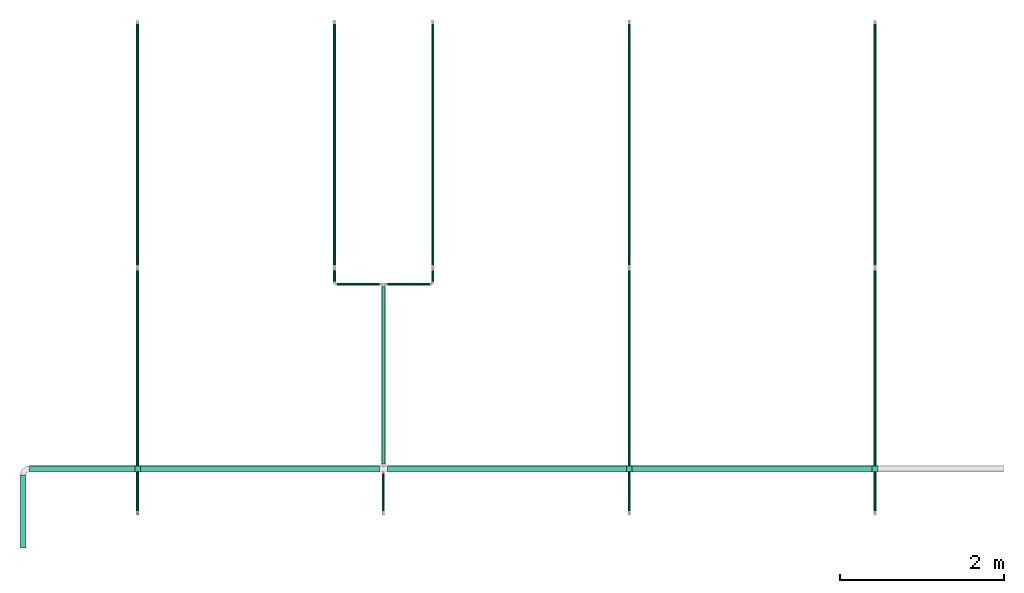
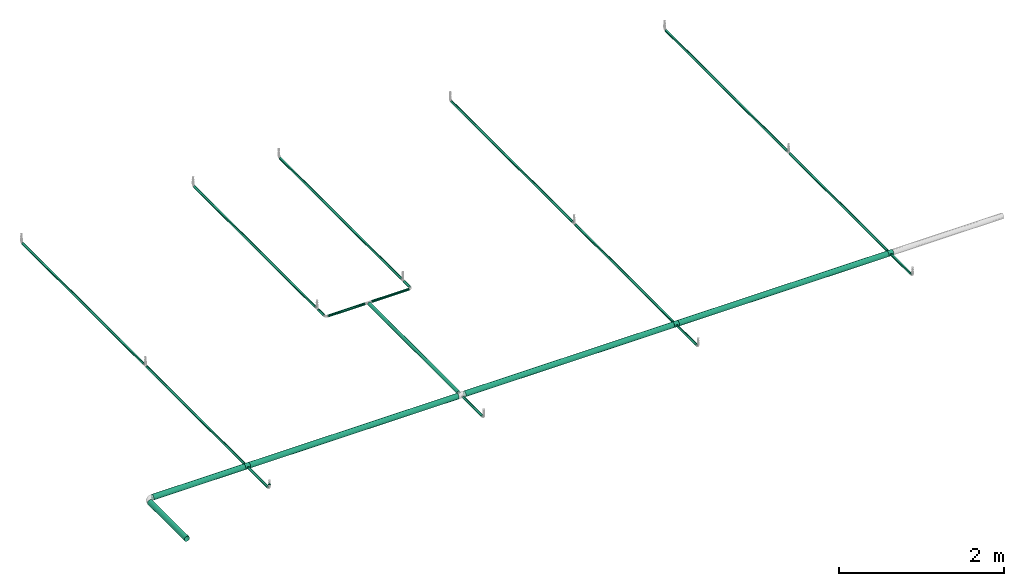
# One storey, part 1 of 31: 22 flow segments, 4 flow fittings.
"""IFC2X3 building model written with IfcOpenShell, lengths in millimetres."""

from ifc_helpers import new_model, entity, si_unit, converted_unit, derived_unit, direction, frame, origin_with_axes, origin_2d_with_axis, place, context, subcontext, project, spatial, hollow_circle, extrude, open_shell, surface_model, source, transform, mapped, type_object, element, save


model = new_model("IFC2X3")

# Units and contexts
model_context = context("Model", 3, precision=0.01, world=frame((0.0, 4.29681676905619e-09, 0.0)), true_north=direction((4.01073788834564e-13, 1.0)))
plan_context = context("Plan", 3, precision=0.01, world=frame((0.0, 4.29681676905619e-09, 0.0)), true_north=direction((4.01073788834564e-13, 1.0)))
body_context = subcontext(model_context, "Body", "Model", "MODEL_VIEW")
ifc_project = project(units=[converted_unit("PLANEANGLEUNIT", "DEGREE", entity("IfcPositiveLengthMeasure", 0.0174532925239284), si_unit("PLANEANGLEUNIT", "RADIAN"), dimensions=[0, 0, 0, 0, 0, 0, 0]), si_unit("AREAUNIT", "SQUARE_METRE"), si_unit("LENGTHUNIT", "METRE", prefix="MILLI"), si_unit("MASSUNIT", "GRAM", prefix="KILO"), si_unit("POWERUNIT", "WATT"), si_unit("PRESSUREUNIT", "PASCAL", prefix="KILO"), si_unit("FORCEUNIT", "NEWTON", prefix="KILO"), si_unit("ELECTRICVOLTAGEUNIT", "VOLT"), si_unit("ELECTRICCURRENTUNIT", "AMPERE"), si_unit("THERMODYNAMICTEMPERATUREUNIT", "DEGREE_CELSIUS"), si_unit("TIMEUNIT", "SECOND"), si_unit("VOLUMEUNIT", "CUBIC_METRE"), derived_unit("LINEARVELOCITYUNIT", [(si_unit("LENGTHUNIT", "METRE"), 1), (si_unit("TIMEUNIT", "SECOND"), -1)]), derived_unit("VOLUMETRICFLOWRATEUNIT", [(si_unit("VOLUMEUNIT", "CUBIC_METRE"), 1), (si_unit("TIMEUNIT", "SECOND"), -1)]), derived_unit("THERMALTRANSMITTANCEUNIT", [(si_unit("POWERUNIT", "WATT"), 1), (si_unit("THERMODYNAMICTEMPERATUREUNIT", "KELVIN"), -1), (si_unit("AREAUNIT", "SQUARE_METRE"), -1)]), derived_unit("SOUNDPRESSUREUNIT", [(si_unit("PRESSUREUNIT", "PASCAL"), 1)])], contexts=[model_context, plan_context])

# Site, building, storey
site_placement = place(None, frame((0.0, -4.29681676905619e-09, 0.0), z_axis=(0.0, 0.0, 1.0), x_axis=(1.0, 0.0, 0.0)))
site = spatial("IfcSite", under=ifc_project, at=site_placement, CompositionType="ELEMENT")
building_placement = place(site_placement, frame((0.0, 4.29681676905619e-09, 0.0), z_axis=(0.0, 0.0, 1.0), x_axis=(1.0, 0.0, 0.0)))
building = spatial("IfcBuilding", under=site, at=building_placement, Name="mc-building", CompositionType="ELEMENT")
storey_placement = place(building_placement, frame((0.0, 0.0, 200300.0), z_axis=(0.0, 0.0, 1.0), x_axis=(1.0, 0.0, 0.0)))
storey = spatial("IfcBuildingStorey", under=building, at=storey_placement, Name="Nivå C", CompositionType="ELEMENT", Elevation=200300.0)

# Flow fittings
pipe_fitting_type_1 = type_object("IfcPipeFittingType", Name="magi_pipe_fe_reducer_centric_short_NOR", PredefinedType="TRANSITION")
shared_shape_1 = source(origin_with_axes(), body_context, "Body", "SurfaceModel", [
    surface_model("IfcShellBasedSurfaceModel", [(14.4, 5.35, -9.26647), (14.4, 0.0, -10.7), (14.4, 2.76936, -10.33541), (14.4, 10.33541, -2.76936), (14.4, 7.56604, -7.56604), (14.4, -10.33541, -2.76936), (14.4, 9.26647, -5.35), (14.4, 0.0, 10.7), (14.4, -5.35, -9.26647), (14.4, -2.76936, -10.33541), (14.4, -7.56604, -7.56604), (14.4, -9.26647, -5.35), (14.4, 10.7, 0.0), (14.4, 10.33541, 2.76936), (14.4, 9.26647, 5.35), (14.4, 7.56604, 7.56604), (14.4, 2.76936, 10.33541), (14.4, 5.35, 9.26647), (14.4, -10.33541, 2.76936), (14.4, -7.56604, 7.56604), (14.4, -9.26647, 5.35), (14.4, -10.7, 0.0), (14.4, -2.76936, 10.33541), (14.4, -5.35, 9.26647), (12.4, 2.76936, 10.33541), (12.4, -10.33541, -2.76936), (12.4, 0.0, 10.7), (12.4, 5.35, 9.26647), (12.4, 7.56604, 7.56604), (12.4, 9.26647, 5.35), (12.4, 10.33541, 2.76936), (12.4, -10.33541, 2.76936), (12.4, -2.76936, 10.33541), (12.4, -7.56604, 7.56604), (12.4, -5.35, 9.26647), (12.4, -9.26647, 5.35), (12.4, -10.7, 0.0), (12.4, 10.33541, -2.76936), (12.4, 5.35, -9.26647), (12.4, 9.26647, -5.35), (12.4, 7.56604, -7.56604), (12.4, 2.76936, -10.33541), (12.4, -9.26647, -5.35), (12.4, -5.35, -9.26647), (12.4, -7.56604, -7.56604), (12.4, 0.0, -10.7), (12.4, -2.76936, -10.33541), (12.4, 10.7, 0.0), (-2.0, 11.9501, 11.9501), (-2.0, 0.0, 16.9), (-2.0, 4.37404, 16.32415), (-2.0, 8.45, 14.63583), (-2.0, 14.63583, 8.45), (-2.0, 16.32415, 4.37404), (-2.0, -16.32415, 4.37404), (-2.0, -8.45, 14.63583), (-2.0, -14.63583, 8.45), (-2.0, -11.9501, 11.9501), (-2.0, -4.37404, 16.32415), (-2.0, -16.32415, -4.37404), (-2.0, -16.9, 0.0), (-2.0, -8.45, -14.63583), (-2.0, 16.32415, -4.37404), (-2.0, 11.9501, -11.9501), (-2.0, 14.63583, -8.45), (-2.0, 8.45, -14.63583), (-2.0, 4.37404, -16.32415), (-2.0, 0.0, -16.9), (-2.0, -11.9501, -11.9501), (-2.0, -14.63583, -8.45), (-2.0, -4.37404, -16.32415), (-2.0, 16.9, 0.0), (0.0, 4.37404, -16.32415), (0.0, 8.45, -14.63583), (0.0, 11.9501, -11.9501), (0.0, 0.0, -16.9), (0.0, 16.32415, -4.37404), (0.0, 16.32415, 4.37404), (0.0, 14.63583, -8.45), (0.0, -8.45, -14.63583), (0.0, -4.37404, -16.32415), (0.0, -11.9501, -11.9501), (0.0, -16.32415, -4.37404), (0.0, -14.63583, -8.45), (0.0, -16.32415, 4.37404), (0.0, 16.9, 0.0), (0.0, 14.63583, 8.45), (0.0, 11.9501, 11.9501), (0.0, 4.37404, 16.32415), (0.0, 8.45, 14.63583), (0.0, 0.0, 16.9), (0.0, -14.63583, 8.45), (0.0, -16.9, 0.0), (0.0, -8.45, 14.63583), (0.0, -11.9501, 11.9501), (0.0, -4.37404, 16.32415), (12.4, 9.3625, -2.31662), (0.0, 14.42505, -5.97505), (0.0, 15.66253, -2.98753), (12.4, -6.6875, -6.94985), (0.0, -13.18758, -8.96258), (0.0, 2.98753, -15.66253), (12.4, 0.0, -9.26647), (12.4, 6.6875, -6.94985), (0.0, 8.96258, -13.18758), (12.4, -9.3625, -2.31662), (0.0, -15.66253, -2.98753), (0.0, -14.42505, -5.97505), (0.0, 5.97505, -14.42505), (0.0, -2.98753, -15.66253), (0.0, -8.96258, -13.18758), (0.0, 13.18758, -8.96258), (12.4, 8.025, -4.63324), (12.4, -2.675, -9.26647), (12.4, 2.675, -9.26647), (0.0, -5.97505, -14.42505), (12.4, -8.025, -4.63324), (12.4, -9.3625, 2.31662), (0.0, -14.42505, 5.97505), (0.0, -15.66253, 2.98753), (12.4, 6.6875, 6.94985), (0.0, 13.18758, 8.96258), (0.0, -2.98753, 15.66253), (12.4, 0.0, 9.26647), (12.4, -6.6875, 6.94985), (0.0, -8.96258, 13.18758), (12.4, 9.3625, 2.31662), (0.0, 15.66253, 2.98753), (0.0, 14.42505, 5.97505), (0.0, -5.97505, 14.42505), (0.0, 2.98753, 15.66253), (0.0, 8.96258, 13.18758), (0.0, -13.18758, 8.96258), (12.4, -8.025, 4.63324), (12.4, 2.675, 9.26647), (12.4, -2.675, 9.26647), (0.0, 5.97505, 14.42505), (12.4, 8.025, 4.63324)], [open_shell([[[0, 1, 2]], [[3, 0, 4]], [[5, 0, 3]], [[3, 4, 6]], [[7, 5, 3]], [[1, 8, 9]], [[1, 0, 8]], [[10, 5, 11]], [[5, 10, 8]], [[0, 5, 8]], [[3, 12, 13]], [[13, 14, 15]], [[13, 15, 16]], [[7, 3, 16]], [[16, 15, 17]], [[7, 18, 5]], [[18, 19, 20]], [[21, 5, 18]], [[19, 22, 23]], [[22, 19, 18]], [[7, 22, 18]], [[13, 16, 3]], [[24, 25, 26]], [[27, 25, 24]], [[28, 29, 30]], [[28, 25, 27]], [[31, 26, 25]], [[32, 33, 34]], [[33, 32, 31]], [[33, 31, 35]], [[32, 26, 31]], [[31, 25, 36]], [[30, 37, 28]], [[25, 28, 37]], [[38, 37, 39]], [[37, 38, 25]], [[38, 39, 40]], [[41, 25, 38]], [[42, 43, 44]], [[43, 42, 25]], [[43, 45, 46]], [[43, 25, 41]], [[41, 45, 43]], [[37, 30, 47]], [[25, 5, 36]], [[42, 11, 25]], [[8, 44, 43]], [[42, 44, 10]], [[9, 43, 46]], [[25, 11, 5]], [[5, 21, 36]], [[9, 8, 43]], [[10, 44, 8]], [[10, 11, 42]], [[1, 9, 46]], [[46, 45, 1]], [[41, 2, 45]], [[38, 0, 41]], [[6, 40, 39]], [[38, 40, 4]], [[3, 39, 37]], [[38, 4, 0]], [[0, 2, 41]], [[12, 3, 37]], [[6, 39, 3]], [[6, 4, 40]], [[47, 12, 37]], [[45, 2, 1]], [[30, 13, 47]], [[29, 14, 30]], [[17, 28, 27]], [[29, 28, 15]], [[16, 27, 24]], [[30, 14, 13]], [[13, 12, 47]], [[16, 17, 27]], [[15, 28, 17]], [[15, 14, 29]], [[7, 16, 24]], [[24, 26, 7]], [[32, 22, 26]], [[34, 23, 32]], [[20, 33, 35]], [[34, 33, 19]], [[18, 35, 31]], [[34, 19, 23]], [[23, 22, 32]], [[21, 18, 31]], [[20, 35, 18]], [[20, 19, 33]], [[36, 21, 31]], [[26, 22, 7]], [[48, 49, 50]], [[48, 50, 51]], [[48, 52, 53]], [[48, 53, 49]], [[49, 53, 54]], [[55, 56, 57]], [[55, 58, 49]], [[56, 55, 49]], [[49, 54, 56]], [[54, 59, 60]], [[54, 53, 61]], [[53, 62, 63]], [[63, 62, 64]], [[63, 65, 66]], [[61, 53, 63]], [[67, 63, 66]], [[59, 68, 69]], [[68, 59, 61]], [[61, 67, 70]], [[59, 54, 61]], [[63, 67, 61]], [[53, 71, 62]], [[72, 73, 74]], [[75, 72, 74]], [[74, 76, 77]], [[76, 74, 78]], [[74, 77, 79]], [[75, 79, 80]], [[75, 74, 79]], [[81, 82, 83]], [[82, 81, 79]], [[79, 84, 82]], [[77, 76, 85]], [[77, 86, 87]], [[77, 87, 88]], [[88, 84, 79]], [[88, 87, 89]], [[84, 88, 90]], [[90, 91, 84]], [[92, 82, 84]], [[91, 93, 94]], [[91, 90, 93]], [[93, 90, 95]], [[79, 77, 88]], [[59, 82, 60]], [[69, 83, 59]], [[79, 68, 61]], [[69, 68, 81]], [[80, 61, 70]], [[59, 83, 82]], [[82, 92, 60]], [[80, 79, 61]], [[81, 68, 79]], [[81, 83, 69]], [[75, 80, 70]], [[70, 67, 75]], [[66, 72, 67]], [[65, 73, 66]], [[78, 63, 64]], [[65, 63, 74]], [[76, 64, 62]], [[65, 74, 73]], [[73, 72, 66]], [[85, 76, 62]], [[78, 64, 76]], [[78, 74, 63]], [[71, 85, 62]], [[67, 72, 75]], [[53, 77, 71]], [[52, 86, 53]], [[89, 48, 51]], [[52, 48, 87]], [[88, 51, 50]], [[53, 86, 77]], [[77, 85, 71]], [[88, 89, 51]], [[87, 48, 89]], [[87, 86, 52]], [[90, 88, 50]], [[50, 49, 90]], [[58, 95, 49]], [[55, 93, 58]], [[91, 57, 56]], [[55, 57, 94]], [[84, 56, 54]], [[55, 94, 93]], [[93, 95, 58]], [[92, 84, 54]], [[91, 56, 84]], [[91, 94, 57]], [[60, 92, 54]], [[49, 95, 90]], [[27, 34, 47]], [[47, 34, 43]], [[43, 38, 47]], [[43, 34, 36]], [[90, 87, 94]], [[92, 94, 87]], [[87, 74, 92]], [[75, 92, 74]], [[81, 92, 75]], [[74, 87, 85]], [[96, 97, 98]], [[81, 99, 100]], [[101, 102, 75]], [[98, 85, 47]], [[74, 103, 104]], [[104, 103, 38]], [[105, 106, 107]], [[38, 108, 104]], [[102, 109, 75]], [[110, 99, 81]], [[47, 96, 98]], [[103, 111, 112]], [[109, 102, 113]], [[36, 92, 106]], [[102, 101, 114]], [[110, 115, 43]], [[96, 112, 97]], [[107, 116, 105]], [[36, 106, 105]], [[113, 115, 109]], [[43, 115, 113]], [[116, 107, 100]], [[108, 38, 114]], [[111, 103, 74]], [[111, 97, 112]], [[99, 110, 43]], [[116, 100, 99]], [[101, 108, 114]], [[117, 118, 119]], [[87, 120, 121]], [[122, 123, 90]], [[119, 92, 36]], [[94, 124, 125]], [[125, 124, 34]], [[126, 127, 128]], [[34, 129, 125]], [[123, 130, 90]], [[131, 120, 87]], [[36, 117, 119]], [[124, 132, 133]], [[130, 123, 134]], [[47, 85, 127]], [[123, 122, 135]], [[131, 136, 27]], [[117, 133, 118]], [[128, 137, 126]], [[47, 127, 126]], [[134, 136, 130]], [[27, 136, 134]], [[137, 128, 121]], [[129, 34, 135]], [[132, 124, 94]], [[132, 118, 133]], [[120, 131, 27]], [[137, 121, 120]], [[122, 129, 135]]])]),
])
flow_fitting_placement = place(storey_placement, frame((602500.0, 397923.19532, 2962.64799999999), z_axis=(0.0, 1.0, 0.0), x_axis=(0.0, 0.0, 1.0)))
element("IfcFlowFitting", 1, at=flow_fitting_placement, inside=storey, type_object=pipe_fitting_type_1, Name="magi_pipe_fe_reducer_centric_short_NOR", context=body_context, shape_type="MappedRepresentation", body=[
    mapped(shared_shape_1, transform((0.0, 0.0, 0.0), scale=1.0)),
])
pipe_fitting_type_2 = type_object("IfcPipeFittingType", Name="magi_pipe_fe_cross_centric_90_001", PredefinedType="JUNCTION")
shared_shape_2 = source(origin_with_axes(), body_context, "Body", "SurfaceModel", [
    surface_model("IfcShellBasedSurfaceModel", [(-33.8, 9.86101, -36.80177), (-33.8, 0.0, -38.1), (-33.8, 36.80177, -9.86101), (-33.8, 19.05, -32.99557), (-33.8, 32.99557, -19.05), (-33.8, 26.94077, -26.94077), (-33.8, -38.1, 0.0), (-33.8, -19.05, -32.99557), (-33.8, -26.94077, -26.94077), (-33.8, -9.86101, -36.80177), (-33.8, -32.99557, -19.05), (-33.8, -36.80177, -9.86101), (-33.8, 38.1, 0.0), (-33.8, 32.99557, 19.05), (-33.8, 36.80177, 9.86101), (-33.8, -36.80177, 9.86101), (-33.8, 19.05, 32.99557), (-33.8, 26.94077, 26.94077), (-33.8, 9.86101, 36.80177), (-33.8, 0.0, 38.1), (-33.8, -26.94077, 26.94077), (-33.8, -32.99557, 19.05), (-33.8, -9.86101, 36.80177), (-33.8, -19.05, 32.99557), (33.8, 0.0, -38.1), (33.8, 9.86101, -36.80177), (33.8, 19.05, -32.99557), (33.8, 26.94077, -26.94077), (33.8, 32.99557, -19.05), (33.8, 36.80177, -9.86101), (33.8, -38.1, 0.0), (33.8, -9.86101, -36.80177), (33.8, -26.94077, -26.94077), (33.8, -19.05, -32.99557), (33.8, -32.99557, -19.05), (33.8, -36.80177, -9.86101), (33.8, 36.80177, 9.86101), (33.8, 32.99557, 19.05), (33.8, 19.05, 32.99557), (33.8, 0.0, 38.1), (33.8, 26.94077, 26.94077), (33.8, 9.86101, 36.80177), (33.8, -26.94077, 26.94077), (33.8, -32.99557, 19.05), (33.8, -36.80177, 9.86101), (33.8, -19.05, 32.99557), (33.8, -9.86101, 36.80177), (33.8, 38.1, 0.0), (33.8, -37.45089, 4.9305), (15.86072, -37.65053, 5.83504), (16.9, -38.1, 0.0), (-8.4904, -35.18646, 14.61243), (-33.8, -34.89867, 14.4555), (-15.8612, -37.65073, 5.83372), (-12.9317, -36.51341, 10.88031), (12.92726, -36.51183, 10.88559), (33.8, -34.89867, 14.4555), (8.48894, -35.18611, 14.61328), (-2.97221, -34.27585, 16.63658), (2.96752, -34.27545, 16.63742), (-33.8, -37.45089, 4.9305), (-16.9, -38.1, 0.0), (-33.8, -37.45089, -4.9305), (-15.8612, -37.65073, -5.83372), (15.86072, -37.65053, -5.83504), (33.8, -37.45089, -4.9305), (-12.9317, -36.51341, -10.88031), (-33.8, -34.89867, -14.4555), (-8.4904, -35.18646, -14.61243), (8.48894, -35.18611, -14.61328), (33.8, -34.89867, -14.4555), (2.96752, -34.27545, -16.63742), (12.92726, -36.51183, -10.88559), (-2.97221, -34.27585, -16.63658), (4.37404, -57.15, -16.32415), (-16.9, -57.15, 0.0), (0.0, -57.15, -16.9), (14.63583, -57.15, -8.45), (8.45, -57.15, -14.63583), (16.32415, -57.15, -4.37404), (11.9501, -57.15, -11.9501), (-11.9501, -57.15, -11.9501), (-8.45, -57.15, -14.63583), (-4.37404, -57.15, -16.32415), (-14.63583, -57.15, -8.45), (-16.32415, -57.15, -4.37404), (16.9, -57.15, 0.0), (8.45, -57.15, 14.63583), (16.32415, -57.15, 4.37404), (14.63583, -57.15, 8.45), (-8.45, -57.15, 14.63583), (11.9501, -57.15, 11.9501), (4.37404, -57.15, 16.32415), (-16.32415, -57.15, 4.37404), (-11.9501, -57.15, 11.9501), (-14.63583, -57.15, 8.45), (0.0, -57.15, 16.9), (-4.37404, -57.15, 16.32415), (-16.3806, -37.87537, 2.91686), (-5.7313, -34.73116, 15.62451), (-0.00235, -34.27565, 16.637), (5.72823, -34.73078, 15.62535), (16.38036, -37.87526, 2.91752), (16.38036, -37.87526, -2.91752), (5.72823, -34.73078, -15.62535), (-0.00235, -34.27565, -16.637), (-5.7313, -34.73116, -15.62451), (-16.3806, -37.87537, -2.91686), (15.8612, 37.65073, 5.83372), (33.8, 37.45089, 4.9305), (2.97221, 34.27585, 16.63658), (16.9, 38.1, 0.0), (8.4904, 35.18646, 14.61243), (33.8, 34.89867, 14.4555), (12.9317, 36.51341, 10.88031), (-2.96752, 34.27545, 16.63742), (-16.9, 38.1, 0.0), (-33.8, 37.45089, 4.9305), (-15.86072, 37.65053, 5.83504), (-8.48894, 35.18611, 14.61328), (-12.92726, 36.51183, 10.88559), (-33.8, 34.89867, 14.4555), (33.8, 37.45089, -4.9305), (15.8612, 37.65073, -5.83372), (12.9317, 36.51341, -10.88031), (33.8, 34.89867, -14.4555), (2.97221, 34.27585, -16.63658), (8.4904, 35.18646, -14.61243), (-2.96752, 34.27545, -16.63742), (-8.48894, 35.18611, -14.61328), (-33.8, 34.89867, -14.4555), (-12.92726, 36.51183, -10.88559), (-15.86072, 37.65053, -5.83504), (-33.8, 37.45089, -4.9305), (-4.37404, 57.15, -16.32415), (16.9, 57.15, 0.0), (0.0, 57.15, -16.9), (-14.63583, 57.15, -8.45), (-8.45, 57.15, -14.63583), (-16.32415, 57.15, -4.37404), (-11.9501, 57.15, -11.9501), (-8.45, 57.15, 14.63583), (8.45, 57.15, -14.63583), (4.37404, 57.15, -16.32415), (11.9501, 57.15, -11.9501), (14.63583, 57.15, -8.45), (16.32415, 57.15, -4.37404), (-16.32415, 57.15, 4.37404), (-14.63583, 57.15, 8.45), (16.32415, 57.15, 4.37404), (-11.9501, 57.15, 11.9501), (0.0, 57.15, 16.9), (-4.37404, 57.15, 16.32415), (11.9501, 57.15, 11.9501), (14.63583, 57.15, 8.45), (8.45, 57.15, 14.63583), (4.37404, 57.15, 16.32415), (-16.9, 57.15, 0.0), (16.3806, 37.87537, 2.91686), (5.7313, 34.73116, 15.62451), (0.00235, 34.27565, 16.637), (-5.72823, 34.73078, 15.62535), (-16.38036, 37.87526, 2.91752), (-16.38036, 37.87526, -2.91752), (-5.72823, 34.73078, -15.62535), (0.00235, 34.27565, -16.637), (5.7313, 34.73116, -15.62451), (16.3806, 37.87537, -2.91686)], [open_shell([[[0, 1, 2]], [[3, 0, 2]], [[2, 4, 5]], [[3, 2, 5]], [[6, 2, 1]], [[7, 8, 9]], [[8, 1, 9]], [[10, 11, 8]], [[6, 8, 11]], [[8, 6, 1]], [[6, 12, 2]], [[13, 14, 12]], [[15, 13, 6]], [[16, 13, 15]], [[17, 13, 16]], [[18, 16, 19]], [[20, 19, 21]], [[16, 15, 21]], [[22, 19, 23]], [[20, 23, 19]], [[21, 19, 16]], [[12, 6, 13]], [[24, 25, 26]], [[24, 26, 27]], [[27, 28, 29]], [[24, 27, 30]], [[30, 27, 29]], [[31, 32, 33]], [[31, 24, 32]], [[34, 30, 35]], [[30, 34, 32]], [[24, 30, 32]], [[29, 36, 30]], [[36, 37, 30]], [[30, 37, 38]], [[38, 39, 30]], [[38, 37, 40]], [[39, 38, 41]], [[30, 42, 43]], [[44, 30, 43]], [[45, 39, 46]], [[45, 42, 30]], [[30, 39, 45]], [[36, 29, 47]], [[48, 44, 49]], [[50, 30, 48]], [[50, 48, 49]], [[51, 21, 52]], [[53, 54, 15]], [[55, 56, 57]], [[58, 59, 20]], [[53, 15, 60]], [[41, 38, 16]], [[45, 23, 42]], [[61, 62, 63]], [[64, 35, 65]], [[31, 33, 7]], [[66, 67, 68]], [[3, 26, 0]], [[26, 3, 5]], [[69, 34, 70]], [[32, 71, 8]], [[64, 72, 35]], [[73, 68, 10]], [[68, 67, 10]], [[66, 63, 11]], [[63, 62, 11]], [[62, 61, 6]], [[32, 8, 33]], [[74, 75, 76]], [[77, 74, 78]], [[77, 79, 74]], [[77, 78, 80]], [[75, 74, 79]], [[76, 81, 82]], [[82, 83, 76]], [[84, 75, 85]], [[81, 76, 84]], [[75, 84, 76]], [[79, 86, 75]], [[87, 86, 88]], [[87, 88, 89]], [[90, 75, 87]], [[87, 89, 91]], [[90, 87, 92]], [[93, 94, 95]], [[94, 93, 90]], [[90, 96, 97]], [[93, 75, 90]], [[92, 96, 90]], [[87, 75, 86]], [[93, 98, 75]], [[54, 95, 94]], [[93, 95, 53]], [[94, 90, 51]], [[98, 61, 75]], [[53, 95, 54]], [[97, 58, 99]], [[51, 54, 94]], [[96, 59, 100]], [[87, 101, 92]], [[99, 90, 97]], [[99, 51, 90]], [[93, 53, 98]], [[92, 59, 96]], [[49, 89, 88]], [[102, 86, 50]], [[102, 49, 88]], [[91, 89, 55]], [[96, 58, 97]], [[101, 59, 92]], [[87, 57, 101]], [[87, 91, 57]], [[57, 91, 55]], [[55, 89, 49]], [[86, 102, 88]], [[100, 58, 96]], [[79, 103, 86]], [[72, 77, 80]], [[79, 77, 64]], [[80, 78, 69]], [[103, 50, 86]], [[64, 77, 72]], [[74, 71, 104]], [[69, 72, 80]], [[76, 73, 105]], [[82, 106, 83]], [[107, 75, 61]], [[104, 78, 74]], [[104, 69, 78]], [[68, 82, 81]], [[79, 64, 103]], [[63, 84, 85]], [[107, 63, 85]], [[84, 66, 81]], [[76, 71, 74]], [[83, 106, 73]], [[73, 76, 83]], [[68, 106, 82]], [[68, 81, 66]], [[66, 84, 63]], [[75, 107, 85]], [[105, 71, 76]], [[55, 49, 44]], [[56, 55, 44]], [[20, 59, 42]], [[57, 43, 59]], [[43, 57, 56]], [[59, 43, 42]], [[108, 36, 109]], [[45, 46, 22]], [[51, 52, 54]], [[60, 61, 53]], [[61, 60, 6]], [[52, 15, 54]], [[58, 20, 21]], [[58, 21, 51]], [[23, 20, 42]], [[45, 22, 23]], [[46, 19, 22]], [[46, 39, 19]], [[40, 17, 38]], [[41, 18, 39]], [[110, 40, 37]], [[109, 47, 111]], [[109, 111, 108]], [[112, 113, 114]], [[108, 114, 36]], [[114, 113, 36]], [[110, 37, 112]], [[18, 41, 16]], [[110, 115, 40]], [[116, 117, 118]], [[40, 115, 17]], [[17, 16, 38]], [[17, 115, 13]], [[115, 119, 13]], [[120, 121, 119]], [[120, 118, 14]], [[120, 14, 121]], [[118, 117, 14]], [[117, 116, 12]], [[112, 37, 113]], [[119, 121, 13]], [[39, 18, 19]], [[122, 29, 123]], [[111, 47, 122]], [[124, 123, 29]], [[125, 124, 29]], [[111, 122, 123]], [[5, 27, 26]], [[28, 126, 127]], [[126, 28, 27]], [[128, 126, 27]], [[26, 25, 0]], [[28, 127, 125]], [[124, 125, 127]], [[129, 130, 131]], [[132, 131, 2]], [[132, 133, 116]], [[116, 133, 12]], [[130, 2, 131]], [[27, 5, 128]], [[129, 4, 130]], [[128, 5, 4]], [[25, 1, 0]], [[128, 4, 129]], [[25, 24, 1]], [[31, 9, 24]], [[71, 32, 34]], [[65, 30, 50]], [[65, 50, 64]], [[69, 70, 72]], [[72, 70, 35]], [[71, 34, 69]], [[9, 31, 7]], [[132, 2, 133]], [[8, 71, 73]], [[8, 7, 33]], [[8, 73, 10]], [[66, 11, 67]], [[24, 9, 1]], [[134, 135, 136]], [[137, 134, 138]], [[137, 139, 134]], [[137, 138, 140]], [[141, 135, 134]], [[136, 142, 143]], [[136, 144, 142]], [[145, 135, 146]], [[144, 136, 145]], [[136, 135, 145]], [[134, 139, 141]], [[139, 147, 141]], [[141, 147, 148]], [[141, 149, 135]], [[141, 148, 150]], [[151, 141, 152]], [[149, 153, 154]], [[153, 149, 155]], [[155, 151, 156]], [[155, 149, 141]], [[141, 151, 155]], [[139, 157, 147]], [[149, 158, 135]], [[114, 154, 153]], [[149, 154, 108]], [[153, 155, 112]], [[158, 111, 135]], [[108, 154, 114]], [[156, 110, 159]], [[112, 114, 153]], [[151, 115, 160]], [[141, 161, 152]], [[159, 155, 156]], [[159, 112, 155]], [[149, 108, 158]], [[152, 115, 151]], [[118, 148, 147]], [[162, 157, 116]], [[162, 118, 147]], [[150, 148, 120]], [[151, 110, 156]], [[161, 115, 152]], [[141, 119, 161]], [[141, 150, 119]], [[119, 150, 120]], [[120, 148, 118]], [[157, 162, 147]], [[160, 110, 151]], [[139, 163, 157]], [[131, 137, 140]], [[139, 137, 132]], [[140, 138, 129]], [[163, 116, 157]], [[132, 137, 131]], [[134, 128, 164]], [[129, 131, 140]], [[136, 126, 165]], [[142, 166, 143]], [[167, 135, 111]], [[164, 138, 134]], [[164, 129, 138]], [[127, 142, 144]], [[139, 132, 163]], [[123, 145, 146]], [[167, 123, 146]], [[145, 124, 144]], [[136, 128, 134]], [[143, 166, 126]], [[126, 136, 143]], [[127, 166, 142]], [[127, 144, 124]], [[124, 145, 123]], [[135, 167, 146]], [[165, 128, 136]]])]),
])
for number, where, z_axis, x_axis, name in (
    (2, (608500.0, 398472.0, 2900.0), (0.0, 0.0, -1.0), (-1.0, 0.0, 0.0), "magi_pipe_fe_cross_centric_90_001"),
    (3, (611500.0, 398472.0, 2900.0), (0.0, 0.0, -1.0), (-1.0, 0.0, 0.0), "magi_pipe_fe_cross_centric_90_001"),
    (4, (602500.0, 398472.0, 2900.0), (0.0, 0.0, -1.0), (-1.0, 0.0, 0.0), "magi_pipe_fe_cross_centric_90_001"),
):
    element("IfcFlowFitting", number, at=place(storey_placement, frame(where, z_axis=z_axis, x_axis=x_axis)), inside=storey, type_object=pipe_fitting_type_2, Name=name, context=body_context, shape_type="MappedRepresentation", body=[
        mapped(shared_shape_2, transform((0.0, 0.0, 0.0), scale=1.0)),
    ])

# Flow segments
pipe_segment_type = type_object("IfcPipeSegmentType", Name="Stålrør normaltykke", PredefinedType="RIGIDSEGMENT")
shared_shape_3 = source(origin_with_axes(), body_context, "Body", "SweptSolid", [
    extrude(hollow_circle(Radius=16.9, WallThickness=2.0, at=origin_2d_with_axis()), frame((0.0, 0.0, 0.0), z_axis=(1.0, 0.0, 0.0), x_axis=(0.0, 1.0, 0.0)), (0.0, 0.0, 1.0), 2937.4),
])
for number, where, z_axis, x_axis in (
    (5, (606102.03234, 403899.39532, 2900.0), (0.0, 0.0, 1.0), (0.0, -1.0, 0.0)),
    (6, (604902.03234, 403899.39532, 2900.0), (0.0, 0.0, 1.0), (0.0, -1.0, 0.0)),
    (7, (602500.0, 403899.39532, 2900.0), (0.0, 0.0, 1.0), (0.0, -1.0, 0.0)),
    (8, (608500.0, 403899.39532, 2900.0), (0.0, 0.0, 1.0), (0.0, -1.0, 0.0)),
    (9, (611500.0, 403899.39532, 2900.0), (0.0, 0.0, 1.0), (0.0, -1.0, 0.0)),
):
    element("IfcFlowSegment", number, at=place(storey_placement, frame(where, z_axis=z_axis, x_axis=x_axis)), inside=storey, type_object=pipe_segment_type, Name="Stålrør normaltykke", context=body_context, shape_type="MappedRepresentation", body=[
        mapped(shared_shape_3, transform((0.0, 0.0, 0.0), scale=1.0)),
    ])
shared_shape_4 = source(origin_with_axes(), body_context, "Body", "SweptSolid", [
    extrude(hollow_circle(Radius=16.9, WallThickness=2.0, at=origin_2d_with_axis()), frame((0.0, 0.0, 0.0), z_axis=(1.0, 0.0, 0.0), x_axis=(0.0, 1.0, 0.0)), (0.0, 0.0, 1.0), 457.9),
])
for number, where, z_axis, x_axis in (
    (10, (605500.0, 397956.99532, 2900.0), (0.0, 0.0, 1.0), (0.0, 1.0, 0.0)),
    (11, (602500.0, 398414.85, 2900.0), (0.0, 0.0, 1.0), (0.0, -1.0, 0.0)),
    (12, (608500.0, 398414.85, 2900.0), (0.0, 0.0, 1.0), (0.0, -1.0, 0.0)),
    (13, (611500.0, 398414.85, 2900.0), (0.0, 0.0, 1.0), (0.0, -1.0, 0.0)),
):
    element("IfcFlowSegment", number, at=place(storey_placement, frame(where, z_axis=z_axis, x_axis=x_axis)), inside=storey, type_object=pipe_segment_type, Name="Stålrør normaltykke", context=body_context, shape_type="MappedRepresentation", body=[
        mapped(shared_shape_4, transform((0.0, 0.0, 0.0), scale=1.0)),
    ])
shared_shape_5 = source(origin_with_axes(), body_context, "Body", "SweptSolid", [
    extrude(hollow_circle(Radius=24.1, WallThickness=2.0, at=origin_2d_with_axis()), frame((0.0, 0.0, 0.0), z_axis=(1.0, 0.0, 0.0), x_axis=(0.0, 1.0, 0.0)), (0.0, 0.0, 1.0), 2169.9),
])
flow_segment_1_placement = place(storey_placement, frame((605500.0, 400699.04532, 2900.0), z_axis=(0.0, 0.0, 1.0), x_axis=(0.0, -1.0, 0.0)))
element("IfcFlowSegment", 14, at=flow_segment_1_placement, inside=storey, type_object=pipe_segment_type, Name="Stålrør normaltykke", context=body_context, shape_type="MappedRepresentation", body=[
    mapped(shared_shape_5, transform((0.0, 0.0, 0.0), scale=1.0)),
])
shared_shape_6 = source(origin_with_axes(), body_context, "Body", "SweptSolid", [
    extrude(hollow_circle(Radius=16.9, WallThickness=2.0, at=origin_2d_with_axis()), frame((0.0, 0.0, 0.0), z_axis=(1.0, 0.0, 0.0), x_axis=(0.0, 1.0, 0.0)), (0.0, 0.0, 1.0), 136.2),
])
for number, where, z_axis, x_axis in (
    (15, (604902.03234, 400894.39532, 2900.0), (0.0, 0.0, 1.0), (0.0, -1.0, 0.0)),
    (16, (606102.03234, 400894.39532, 2900.0), (0.0, 0.0, 1.0), (0.0, -1.0, 0.0)),
):
    element("IfcFlowSegment", number, at=place(storey_placement, frame(where, z_axis=z_axis, x_axis=x_axis)), inside=storey, type_object=pipe_segment_type, Name="Stålrør normaltykke", context=body_context, shape_type="MappedRepresentation", body=[
        mapped(shared_shape_6, transform((0.0, 0.0, 0.0), scale=1.0)),
    ])
shared_shape_7 = source(origin_with_axes(), body_context, "Body", "SweptSolid", [
    extrude(hollow_circle(Radius=16.9, WallThickness=2.0, at=origin_2d_with_axis()), frame((0.0, 0.0, 0.0), z_axis=(1.0, 0.0, 0.0), x_axis=(0.0, 1.0, 0.0)), (0.0, 0.0, 1.0), 519.8),
])
flow_segment_2_placement = place(storey_placement, frame((605548.4, 400724.39532, 2900.0), z_axis=(0.0, 0.0, 1.0), x_axis=(1.0, 0.0, 0.0)))
element("IfcFlowSegment", 17, at=flow_segment_2_placement, inside=storey, type_object=pipe_segment_type, Name="Stålrør normaltykke", context=body_context, shape_type="MappedRepresentation", body=[
    mapped(shared_shape_7, transform((0.0, 0.0, 0.0), scale=1.0)),
])
shared_shape_8 = source(origin_with_axes(), body_context, "Body", "SweptSolid", [
    extrude(hollow_circle(Radius=16.9, WallThickness=2.0, at=origin_2d_with_axis()), frame((0.0, 0.0, 0.0), z_axis=(1.0, 0.0, 0.0), x_axis=(0.0, 1.0, 0.0)), (0.0, 0.0, 1.0), 515.8),
])
flow_segment_3_placement = place(storey_placement, frame((605451.6, 400724.39532, 2900.0), z_axis=(0.0, 0.0, 1.0), x_axis=(-1.0, 0.0, 0.0)))
element("IfcFlowSegment", 18, at=flow_segment_3_placement, inside=storey, type_object=pipe_segment_type, Name="Stålrør normaltykke", context=body_context, shape_type="MappedRepresentation", body=[
    mapped(shared_shape_8, transform((0.0, 0.0, 0.0), scale=1.0)),
])
shared_shape_9 = source(origin_with_axes(), body_context, "Body", "SweptSolid", [
    extrude(hollow_circle(Radius=16.9, WallThickness=2.0, at=origin_2d_with_axis()), frame((0.0, 0.0, 0.0), z_axis=(1.0, 0.0, 0.0), x_axis=(0.0, 1.0, 0.0)), (0.0, 0.0, 1.0), 2365.2),
])
for number, where, z_axis, x_axis in (
    (19, (608500.0, 400894.39532, 2900.0), (0.0, 0.0, 1.0), (0.0, -1.0, 0.0)),
    (20, (611500.0, 400894.39532, 2900.0), (0.0, 0.0, 1.0), (0.0, -1.0, 0.0)),
    (21, (602500.0, 400894.39532, 2900.0), (0.0, 0.0, 1.0), (0.0, -1.0, 0.0)),
):
    element("IfcFlowSegment", number, at=place(storey_placement, frame(where, z_axis=z_axis, x_axis=x_axis)), inside=storey, type_object=pipe_segment_type, Name="Stålrør normaltykke", context=body_context, shape_type="MappedRepresentation", body=[
        mapped(shared_shape_9, transform((0.0, 0.0, 0.0), scale=1.0)),
    ])
shared_shape_10 = source(origin_with_axes(), body_context, "Body", "SweptSolid", [
    extrude(hollow_circle(Radius=38.0, WallThickness=2.0, at=origin_2d_with_axis()), frame((0.0, 0.0, 0.0), z_axis=(1.0, 0.0, 0.0), x_axis=(0.0, 1.0, 0.0)), (0.0, 0.0, 1.0), 2917.8),
])
for number, where, z_axis, x_axis in (
    (22, (605548.4, 398472.0, 2900.0), (0.0, 0.0, 1.0), (1.0, 0.0, 0.0)),
    (23, (602533.8, 398472.0, 2900.0), (0.0, 0.0, 1.0), (1.0, 0.0, 0.0)),
):
    element("IfcFlowSegment", number, at=place(storey_placement, frame(where, z_axis=z_axis, x_axis=x_axis)), inside=storey, type_object=pipe_segment_type, Name="Stålrør normaltykke", context=body_context, shape_type="MappedRepresentation", body=[
        mapped(shared_shape_10, transform((0.0, 0.0, 0.0), scale=1.0)),
    ])
shared_shape_11 = source(origin_with_axes(), body_context, "Body", "SweptSolid", [
    extrude(hollow_circle(Radius=38.0, WallThickness=2.0, at=origin_2d_with_axis()), frame((0.0, 0.0, 0.0), z_axis=(1.0, 0.0, 0.0), x_axis=(0.0, 1.0, 0.0)), (0.0, 0.0, 1.0), 2932.4),
])
flow_segment_4_placement = place(storey_placement, frame((608533.8, 398472.0, 2900.0), z_axis=(0.0, 0.0, 1.0), x_axis=(1.0, 0.0, 0.0)))
element("IfcFlowSegment", 24, at=flow_segment_4_placement, inside=storey, type_object=pipe_segment_type, Name="Stålrør normaltykke", context=body_context, shape_type="MappedRepresentation", body=[
    mapped(shared_shape_11, transform((0.0, 0.0, 0.0), scale=1.0)),
])
shared_shape_12 = source(origin_with_axes(), body_context, "Body", "SweptSolid", [
    extrude(hollow_circle(Radius=38.0, WallThickness=2.0, at=origin_2d_with_axis()), frame((0.0, 0.0, 0.0), z_axis=(1.0, 0.0, 0.0), x_axis=(0.0, 1.0, 0.0)), (0.0, 0.0, 1.0), 1286.5),
])
flow_segment_5_placement = place(storey_placement, frame((602466.2, 398472.0, 2900.0), z_axis=(0.0, 0.0, 1.0), x_axis=(-1.0, 0.0, 0.0)))
element("IfcFlowSegment", 25, at=flow_segment_5_placement, inside=storey, type_object=pipe_segment_type, Name="Stålrør normaltykke", context=body_context, shape_type="MappedRepresentation", body=[
    mapped(shared_shape_12, transform((0.0, 0.0, 0.0), scale=1.0)),
])
shared_shape_13 = source(origin_with_axes(), body_context, "Body", "SweptSolid", [
    extrude(hollow_circle(Radius=38.0, WallThickness=2.0, at=origin_2d_with_axis()), frame((0.0, 0.0, 0.0), z_axis=(1.0, 0.0, 0.0), x_axis=(0.0, 1.0, 0.0)), (0.0, 0.0, 1.0), 892.5),
])
flow_segment_6_placement = place(storey_placement, frame((601103.48168, 397503.34417, 2900.0), z_axis=(0.0, 0.0, 1.0), x_axis=(0.0, 1.0, 0.0)))
element("IfcFlowSegment", 26, at=flow_segment_6_placement, inside=storey, type_object=pipe_segment_type, Name="Stålrør normaltykke", context=body_context, shape_type="MappedRepresentation", body=[
    mapped(shared_shape_13, transform((0.0, 0.0, 0.0), scale=1.0)),
])

save(model, "model.ifc")
